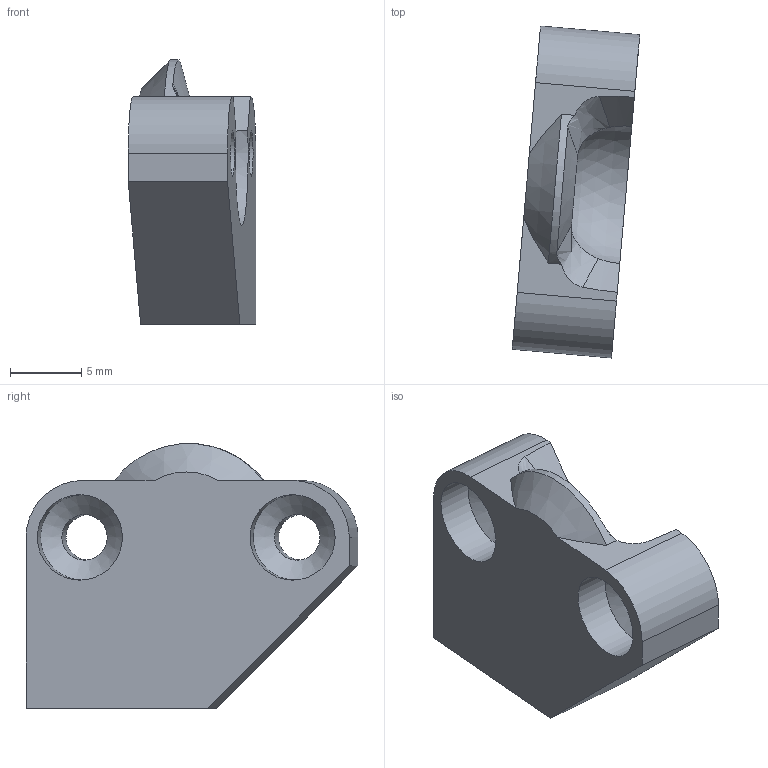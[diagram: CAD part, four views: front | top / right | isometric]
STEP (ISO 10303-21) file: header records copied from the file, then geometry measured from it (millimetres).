
FILE_DESCRIPTION(/* description */ (''),/* implementation_level */ '2;1');
FILE_NAME(/* name */ '4-43-1 Lower wheel socket right.step',/* time_stamp */ '2025-05-10T22:20:38+02:00',/* author */ (''),/* organization */ (''),/* preprocessor_version */ 'ST-DEVELOPER v20.1',/* originating_system */ 'Autodesk Translation Framework v14.4.0.0',/* authorisation */ '');
FILE_SCHEMA (('AUTOMOTIVE_DESIGN { 1 0 10303 214 3 1 1 }'));
Length unit declared in the file: millimetre
Products named in the file (1): Lower wheel socket right
Bounding box: 8.96 x 23.32 x 18.58 mm (x, y, z)
Volume: 1542.5 mm3; surface area: 1385.2 mm2
Topology: 1 solids, 1 shells, 26 faces, 68 edges, 44 vertices
Faces by surface type: plane 9, cylinder 8, cone 6, bspline 2, sphere 1
Full cylindrical faces by diameter (mm): 3.2 x2, 4.1 x1, 6 x2
Entity records: 912 total; most frequent: CARTESIAN_POINT 242, ORIENTED_EDGE 134, DIRECTION 126, EDGE_CURVE 67, AXIS2_PLACEMENT_3D 48, VERTEX_POINT 44, EDGE_LOOP 31, LINE 30
